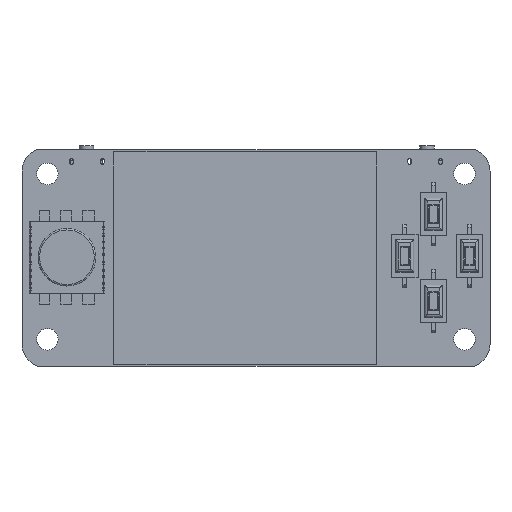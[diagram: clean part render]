
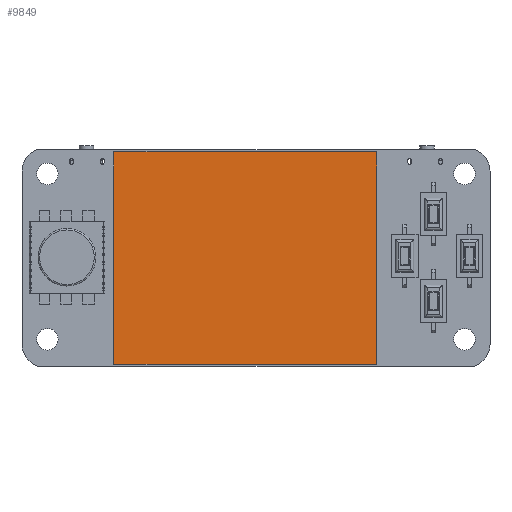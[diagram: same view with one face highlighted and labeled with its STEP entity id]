
A CAD part, top view. The second image highlights one B-rep face of the part: STEP entity #9849.
In plain terms, the highlighted planar face has unit normal (0, 0, 1).
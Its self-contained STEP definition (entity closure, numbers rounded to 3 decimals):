
#7934=FACE_OUTER_BOUND('',#13460,.T.);
#9849=ADVANCED_FACE('',(#7934),#11648,.F.);
#11648=PLANE('',#40715);
#13460=EDGE_LOOP('',(#15949,#15950,#15951,#15952));
#15949=ORIENTED_EDGE('',*,*,#28207,.T.);
#15950=ORIENTED_EDGE('',*,*,#28211,.T.);
#15951=ORIENTED_EDGE('',*,*,#28214,.T.);
#15952=ORIENTED_EDGE('',*,*,#28216,.T.);
#25133=VERTEX_POINT('',#51008);
#25134=VERTEX_POINT('',#51010);
#25136=VERTEX_POINT('',#51016);
#25138=VERTEX_POINT('',#51022);
#28207=EDGE_CURVE('',#25134,#25133,#32829,.T.);
#28211=EDGE_CURVE('',#25133,#25136,#32833,.T.);
#28214=EDGE_CURVE('',#25136,#25138,#32836,.T.);
#28216=EDGE_CURVE('',#25138,#25134,#32838,.T.);
#32829=LINE('',#51009,#36763);
#32833=LINE('',#51017,#36767);
#32836=LINE('',#51023,#36770);
#32838=LINE('',#51026,#36772);
#36763=VECTOR('',#42915,1.);
#36767=VECTOR('',#42921,1.);
#36770=VECTOR('',#42926,1.);
#36772=VECTOR('',#42930,1.);
#40715=AXIS2_PLACEMENT_3D('',#51029,#42935,#42936);
#42915=DIRECTION('',(1.,0.,0.));
#42921=DIRECTION('',(0.,1.,0.));
#42926=DIRECTION('',(-1.,0.,0.));
#42930=DIRECTION('',(0.,-1.,0.));
#42935=DIRECTION('',(0.,0.,-1.));
#42936=DIRECTION('',(1.,0.,0.));
#51008=CARTESIAN_POINT('',(18.263,-14.745,1.4));
#51009=CARTESIAN_POINT('',(-18.263,-14.745,1.4));
#51010=CARTESIAN_POINT('',(-18.263,-14.745,1.4));
#51016=CARTESIAN_POINT('',(18.263,14.745,1.4));
#51017=CARTESIAN_POINT('',(18.263,-14.745,1.4));
#51022=CARTESIAN_POINT('',(-18.263,14.745,1.4));
#51023=CARTESIAN_POINT('',(18.263,14.745,1.4));
#51026=CARTESIAN_POINT('',(-18.263,14.745,1.4));
#51029=CARTESIAN_POINT('',(-18.263,-14.745,1.4));
